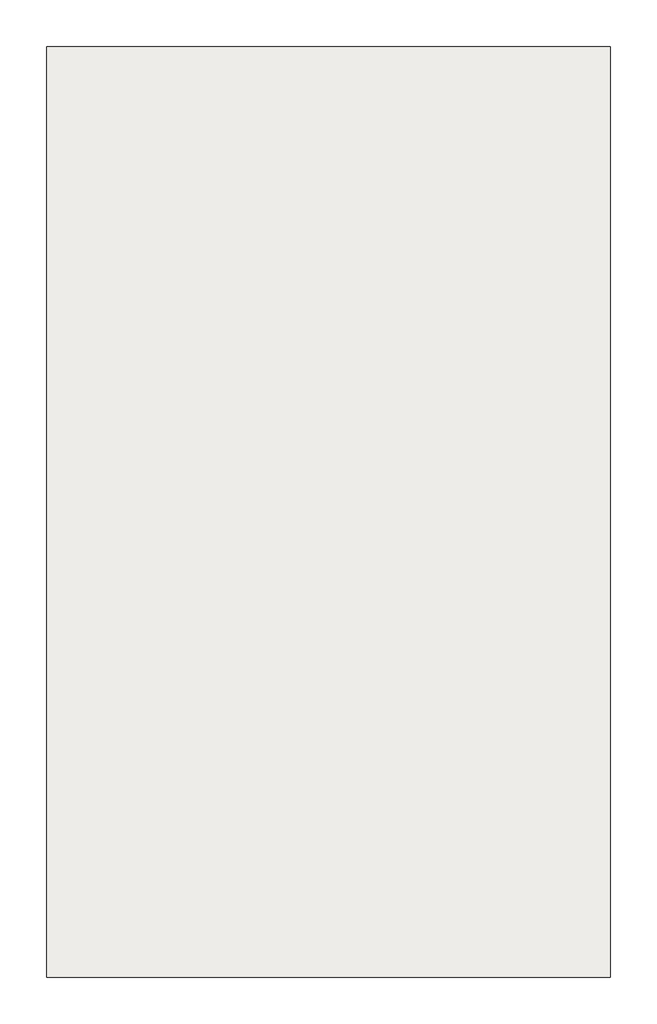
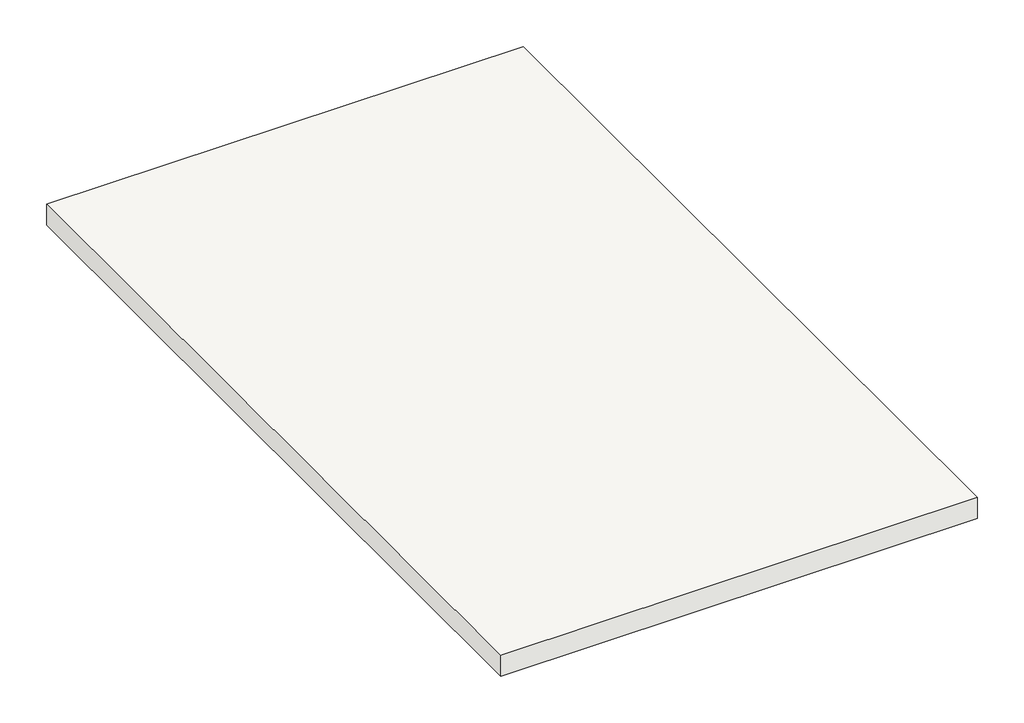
# One storey: 1 roof.
"""IFC4 building model written with IfcOpenShell, lengths in millimetres."""

from ifc_helpers import new_model, si_unit, frame, origin, place, context, project, spatial, polyline, outline, extrude, element, save

model = new_model("IFC4")

# Units and contexts
model_context = context("Model", 3, world=origin())
ifc_project = project(units=[si_unit("LENGTHUNIT", "METRE", prefix="MILLI")], contexts=[model_context])

# Site, building, storey
site = spatial("IfcSite", under=ifc_project)
building = spatial("IfcBuilding", under=site)
storey = spatial("IfcBuildingStorey", under=building, Name="طبقه 6", Elevation=19200.0)

# Roof
placement = place(None, origin())
element("IfcRoof", 1, ObjectType="Generic - 400mm", at=placement, inside=storey, context=model_context, shape_type="SweptSolid", body=[
    extrude(outline(polyline([(2338.1054099, 15131.9973325), (2338.1054099, 931.9973325), (-6261.8945901, 931.9973325), (-6261.8945901, 15131.9973325), (2338.1054099, 15131.9973325)])), frame((0.0, 0.0, 19200.0), z_axis=(0.0, 0.0, 1.0), x_axis=(1.0, 0.0, 0.0)), (0.0, 0.0, 1.0), 400.0),
])

save(model, "model.ifc")
